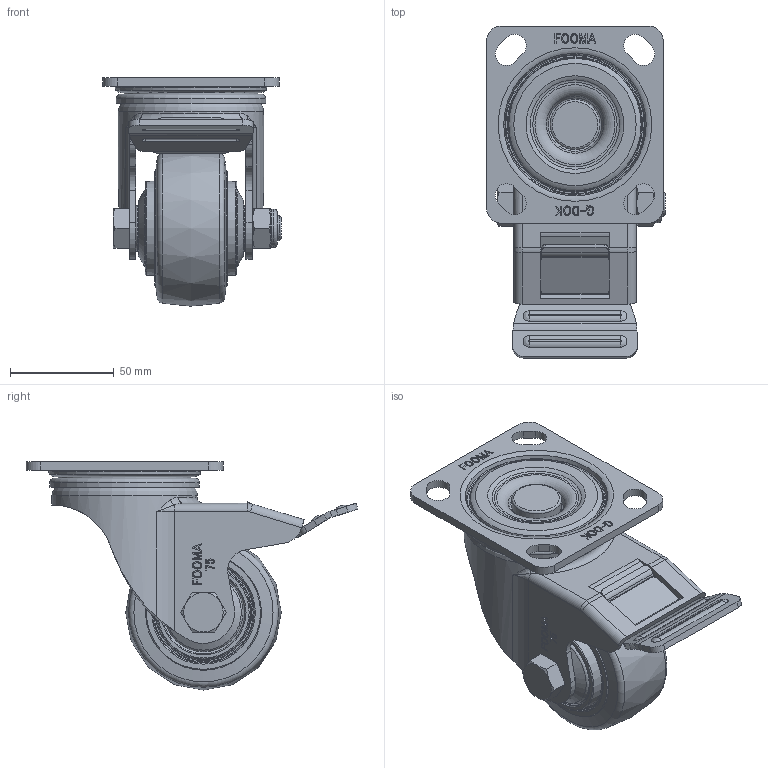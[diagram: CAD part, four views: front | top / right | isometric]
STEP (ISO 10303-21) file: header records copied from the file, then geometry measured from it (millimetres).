
FILE_DESCRIPTION(/* description */ (''),/* implementation_level */ '2;1');
FILE_NAME(/* name */ 'E:\★.DWG\★개발도면\PLM-SERIES(경중하중)-2016\홈페이지용\STEP\PLM-75-BSF-MUD.stp',/* time_stamp */ '2018-01-30T16:24:48+09:00',/* author */ ('장용하'),/* organization */ (''),/* preprocessor_version */ 'ST-DEVELOPER v16.13',/* originating_system */ 'Autodesk Inventor 2018',/* authorisation */ '');
FILE_SCHEMA (('AUTOMOTIVE_DESIGN { 1 0 10303 214 3 1 1 }'));
Length unit declared in the file: millimetre
Products named in the file (1): PLM-75-BSF-MUD ASSY_Shrinkwrap_1
Bounding box: 86 x 159.94 x 110 mm (x, y, z)
Volume: 281271.6 mm3; surface area: 79609.4 mm2
Topology: 2 solids, 2 shells, 826 faces, 2149 edges, 1385 vertices
Faces by surface type: plane 440, bspline 189, cylinder 98, torus 69, cone 30
Full cylindrical faces by diameter (mm): 12 x1, 18.5 x1, 22 x4, 24 x1, 24.4 x1, 36 x2, 38 x2, 40 x2, 53.029 x1, 54.5 x1, 55 x2, 64 x1, 64.418 x2, 70 x1, 70.6 x1, 72 x1
Entity records: 27029 total; most frequent: CARTESIAN_POINT 7268, ORIENTED_EDGE 4080, DIRECTION 3493, EDGE_CURVE 2038, VERTEX_POINT 1369, AXIS2_PLACEMENT_3D 1228, LINE 1037, VECTOR 1037
